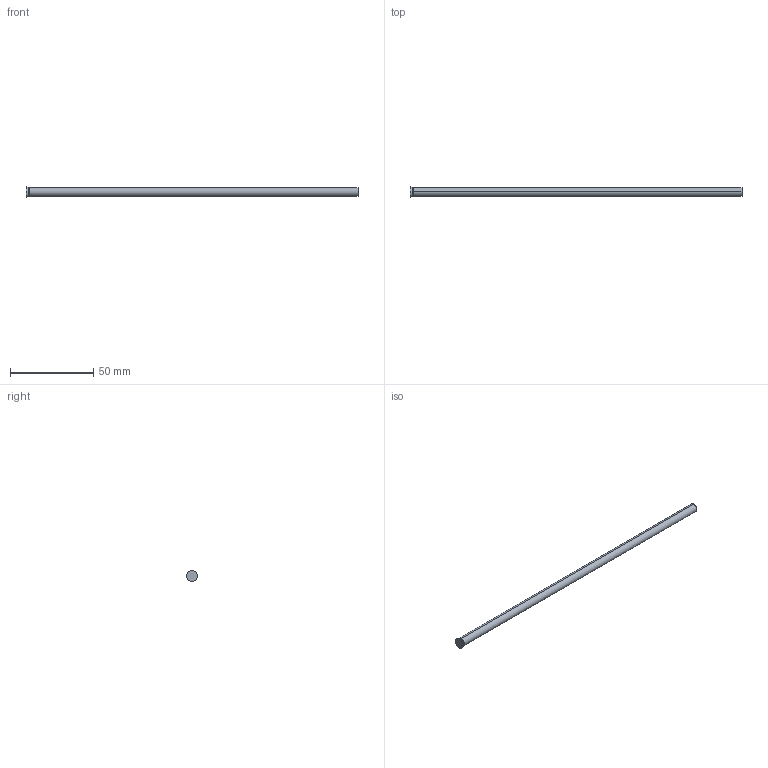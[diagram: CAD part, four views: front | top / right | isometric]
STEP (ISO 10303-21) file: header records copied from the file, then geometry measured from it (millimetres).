
FILE_DESCRIPTION (( 'STEP AP214' ), '1' );
FILE_NAME ('D-5,25x200.STEP', '2020-06-08T17:05:51', ( 'August' ), ( '' ), 'SwSTEP 2.0', 'SolidWorks 2018', '' );
FILE_SCHEMA (( 'AUTOMOTIVE_DESIGN' ));
Length unit declared in the file: millimetre
Products named in the file (1): D-5,25x200
Bounding box: 200 x 6.5 x 6.5 mm (x, y, z)
Volume: 4341.5 mm3; surface area: 3360.5 mm2
Topology: 1 solids, 1 shells, 10 faces, 18 edges, 10 vertices
Faces by surface type: cylinder 4, torus 2, cone 2, plane 2
Entity records: 280 total; most frequent: DIRECTION 52, CARTESIAN_POINT 39, ORIENTED_EDGE 36, AXIS2_PLACEMENT_3D 23, EDGE_CURVE 18, CIRCLE 12, EDGE_LOOP 10, VERTEX_POINT 10
